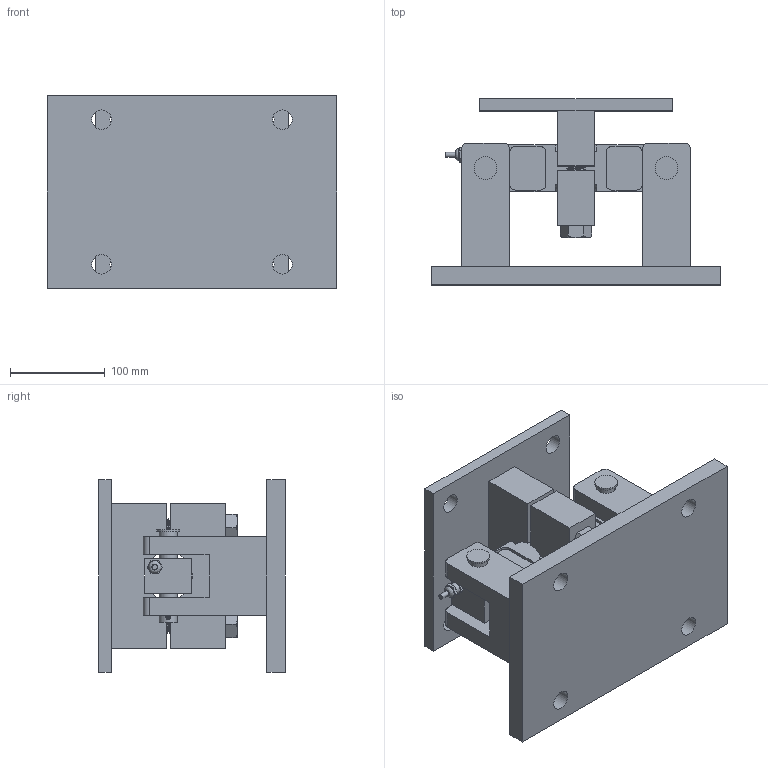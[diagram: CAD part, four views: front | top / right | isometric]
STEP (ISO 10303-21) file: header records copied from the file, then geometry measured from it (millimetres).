
FILE_DESCRIPTION(/* description */ (''),/* implementation_level */ '2;1');
FILE_NAME(/* name */ 'C:/Users/fardi/Dropbox/Work/Anyload/Load Cell Models/Product Catalog 3D/Weight Modules/102/102EHM2/102EHM2-(10-25)klb v6.step',/* time_stamp */ '2020-04-17T11:26:42-07:00',/* author */ (''),/* organization */ (''),/* preprocessor_version */ 'ST-DEVELOPER v18.1',/* originating_system */ 'Autodesk Translation Framework v9.2.0.1227',/* authorisation */ '');
FILE_SCHEMA (('AUTOMOTIVE_DESIGN { 1 0 10303 214 3 1 1 }'));
Length unit declared in the file: millimetre
Products named in the file (7): 102EHM2-(10-25)klb; Base; 102EH-(10-25)klb; Connector; Pins; Top; 91257A850
Assembly tree (7 placements, depth 3):
  102EHM2-(10-25)klb
    Base
    102EH-(10-25)klb
      Connector
    Pins
    Top
    91257A850  x2
Bounding box: 304.8 x 195.93 x 203.2 mm (x, y, z)
Volume: 3428384.3 mm3; surface area: 464291.6 mm2
Topology: 9 solids, 9 shells, 447 faces, 1171 edges, 770 vertices
Faces by surface type: cylinder 261, plane 158, cone 19, bspline 9
Full cylindrical faces by diameter (mm): 4.8 x2, 5.1 x1, 10 x1, 12 x2, 13 x1, 15.75 x32, 16.573 x52, 19 x2, 19.05 x82, 20.066 x2, 20.3 x4, 20.6 x10, 24 x2
Entity records: 24975 total; most frequent: CARTESIAN_POINT 16315, ORIENTED_EDGE 1888, DIRECTION 1549, EDGE_CURVE 944, VERTEX_POINT 621, AXIS2_PLACEMENT_3D 533, LINE 483, VECTOR 483
